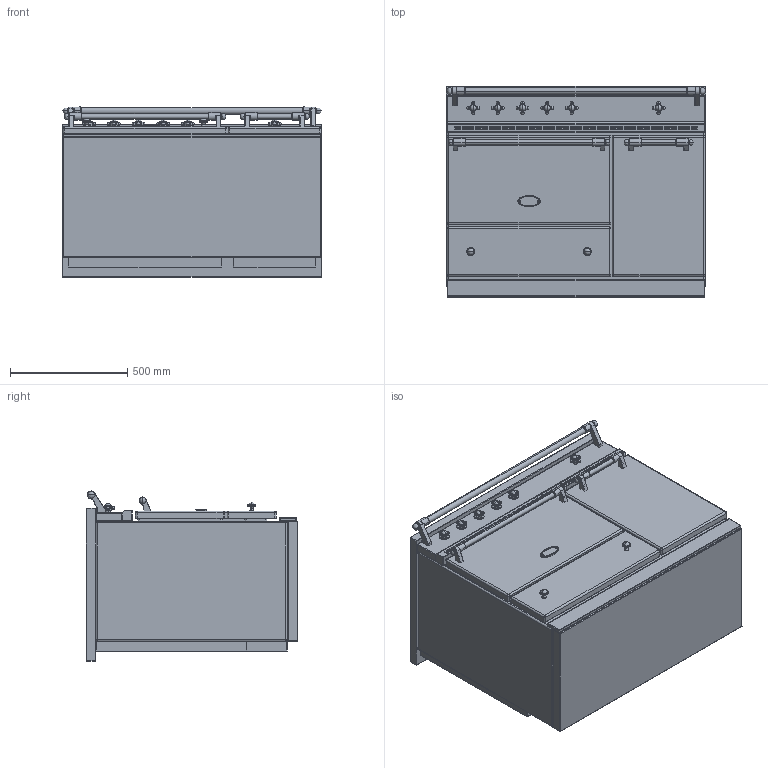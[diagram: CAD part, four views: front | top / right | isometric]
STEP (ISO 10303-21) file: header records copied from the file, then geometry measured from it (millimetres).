
FILE_DESCRIPTION((''),'2;1');
FILE_NAME('LVTR1142_SAVIGNY_ASM','2014-07-29T',('r.avril'),(''),'PRO/ENGINEER BY PARAMETRIC TECHNOLOGY CORPORATION, 2014090','PRO/ENGINEER BY PARAMETRIC TECHNOLOGY CORPORATION, 2014090','');
FILE_SCHEMA(('AP203_CONFIGURATION_CONTROLLED_3D_DESIGN_OF_MECHANICAL_PARTS_AND_ASSEMBLIES_MIM_LF { 1 0 10303 403 2 1 2 }'));
Products named in the file (17): BASE_EXPORT_CHAMBERTIN_LVTR1141; 65650003; 65650004; 6531940; 6531941; 6531943; 65049009; 65650001; 6538399; 1931942; 6518450; 6531942_ASM; BASE_EXPORT_SAVIGNY_LVTR1142_ASM; TABLE_1100D_INDUCTION_ET_VTR; 65052002; TABLE_1100D_VTR_ASM; LVTR1142_SAVIGNY_ASM
Assembly tree (24 placements, depth 4):
  LVTR1142_SAVIGNY_ASM
    BASE_EXPORT_SAVIGNY_LVTR1142_ASM
      BASE_EXPORT_CHAMBERTIN_LVTR1141
      65650003
      65650004
      6531940  x2
      6531941  x2
      6531943  x2
      65049009
      65650001
      6531942_ASM  x6
        6538399
        1931942
        6518450
    TABLE_1100D_VTR_ASM
      TABLE_1100D_INDUCTION_ET_VTR
      65052002
Bounding box: 1105 x 900.7 x 724 mm (x, y, z)
Volume: 578092393.3 mm3; surface area: 8988480.9 mm2
Topology: 32 solids, 40 shells, 2960 faces, 8169 edges, 5516 vertices
Faces by surface type: plane 1524, cylinder 826, extrusion 170, torus 166, sphere 158, cone 58, bspline 46, revolution 12
Entity records: 58133 total; most frequent: CARTESIAN_POINT 11865, DIRECTION 8096, ORIENTED_EDGE 6380, EDGE_CURVE 3200, AXIS2_PLACEMENT_3D 2908, VECTOR 2221, LINE 2191, VERTEX_POINT 2011
